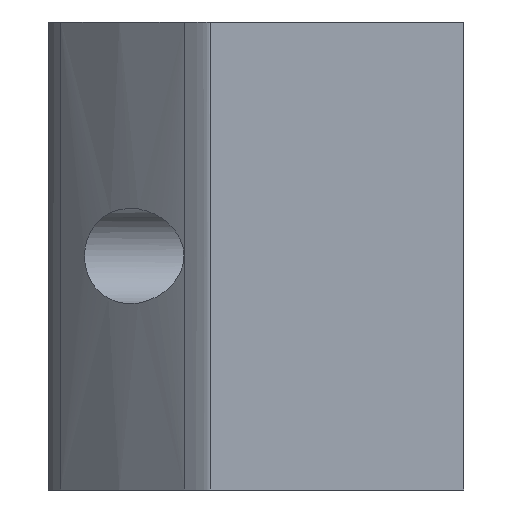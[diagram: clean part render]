
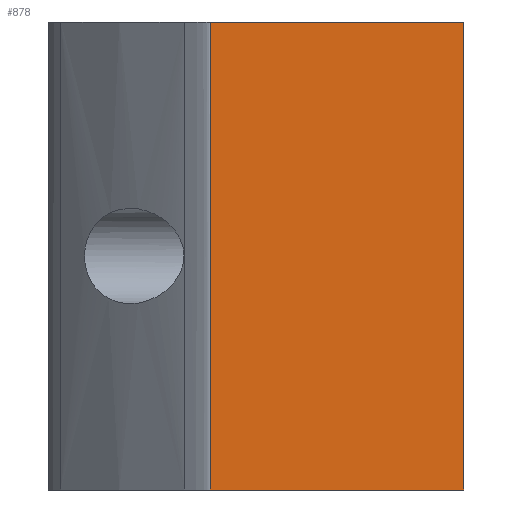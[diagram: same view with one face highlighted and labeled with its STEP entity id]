
A CAD part, front view. The second image highlights one B-rep face of the part: STEP entity #878.
In plain terms, the highlighted planar face has unit normal (0, -1, 0).
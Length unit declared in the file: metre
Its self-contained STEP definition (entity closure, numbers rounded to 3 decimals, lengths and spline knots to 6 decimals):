
#102=PLANE('',#955);
#115=LINE('',#1404,#165);
#126=LINE('',#1453,#176);
#155=LINE('',#1738,#205);
#156=LINE('',#1740,#206);
#165=VECTOR('',#1032,1.);
#176=VECTOR('',#1047,1.);
#205=VECTOR('',#1116,1.);
#206=VECTOR('',#1119,1.);
#309=ORIENTED_EDGE('',*,*,#558,.T.);
#310=ORIENTED_EDGE('',*,*,#486,.T.);
#311=ORIENTED_EDGE('',*,*,#557,.F.);
#312=ORIENTED_EDGE('',*,*,#499,.F.);
#486=EDGE_CURVE('',#619,#618,#115,.T.);
#499=EDGE_CURVE('',#630,#631,#126,.T.);
#557=EDGE_CURVE('',#631,#618,#155,.T.);
#558=EDGE_CURVE('',#630,#619,#156,.T.);
#618=VERTEX_POINT('',#1403);
#619=VERTEX_POINT('',#1405);
#630=VERTEX_POINT('',#1452);
#631=VERTEX_POINT('',#1454);
#745=EDGE_LOOP('',(#309,#310,#311,#312));
#811=FACE_BOUND('',#745,.T.);
#878=ADVANCED_FACE('',(#811),#102,.T.);
#955=AXIS2_PLACEMENT_3D('',#1739,#1117,#1118);
#1032=DIRECTION('',(0.,0.,1.));
#1047=DIRECTION('',(0.,0.,1.));
#1116=DIRECTION('',(1.,0.,0.));
#1117=DIRECTION('',(0.,-1.,0.));
#1118=DIRECTION('',(0.,0.,1.));
#1119=DIRECTION('',(1.,0.,0.));
#1403=CARTESIAN_POINT('',(-0.213,-0.02465,-0.041));
#1404=CARTESIAN_POINT('',(-0.213,-0.02465,-0.081502));
#1405=CARTESIAN_POINT('',(-0.213,-0.02465,-0.0815));
#1452=CARTESIAN_POINT('',(-0.234958,-0.02465,-0.0815));
#1453=CARTESIAN_POINT('',(-0.234958,-0.02465,-0.081502));
#1454=CARTESIAN_POINT('',(-0.234958,-0.02465,-0.041));
#1738=CARTESIAN_POINT('',(-0.213,-0.02465,-0.041));
#1739=CARTESIAN_POINT('',(-0.213,-0.02465,-0.081502));
#1740=CARTESIAN_POINT('',(-0.213,-0.02465,-0.0815));
